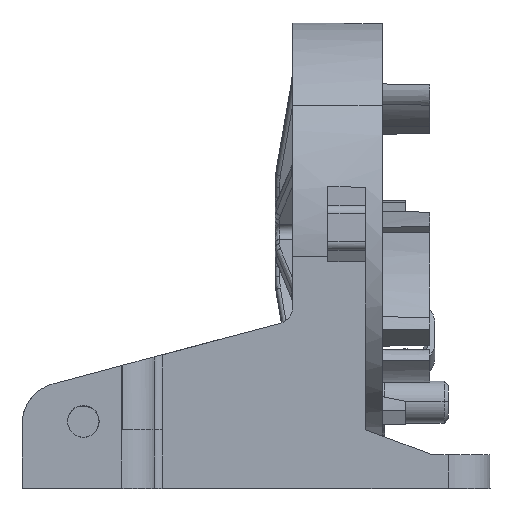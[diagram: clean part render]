
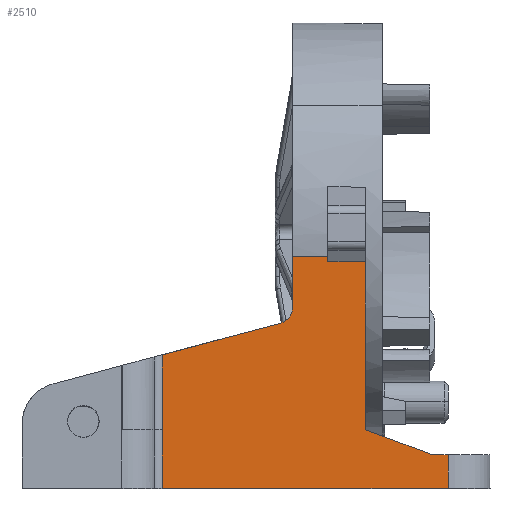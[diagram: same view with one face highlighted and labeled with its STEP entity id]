
A CAD part, top view. The second image highlights one B-rep face of the part: STEP entity #2510.
In plain terms, the highlighted planar face has unit normal (0, 0, 1).
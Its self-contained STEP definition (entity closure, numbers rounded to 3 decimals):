
#1543=VECTOR('Line Direction',#1542,1.) ;
#2405=VECTOR('Line Direction',#2404,1.) ;
#2414=VECTOR('Line Direction',#2413,1.) ;
#2421=VECTOR('Line Direction',#2420,1.) ;
#2442=VECTOR('Line Direction',#2441,1.) ;
#2449=VECTOR('Line Direction',#2448,1.) ;
#2456=VECTOR('Line Direction',#2455,1.) ;
#2463=VECTOR('Line Direction',#2462,1.) ;
#2470=VECTOR('Line Direction',#2469,1.) ;
#2477=VECTOR('Line Direction',#2476,1.) ;
#2484=VECTOR('Line Direction',#2483,1.) ;
#2491=VECTOR('Line Direction',#2490,1.) ;
#1542=DIRECTION('Vector Direction',(0.,-1.,0.)) ;
#2399=DIRECTION('Axis2P3D Direction',(0.,0.,1.)) ;
#2400=DIRECTION('Axis2P3D XDirection',(-1.,0.,0.)) ;
#2404=DIRECTION('Vector Direction',(0.,1.,0.)) ;
#2413=DIRECTION('Vector Direction',(-1.,0.,0.)) ;
#2420=DIRECTION('Vector Direction',(0.,1.,0.)) ;
#2441=DIRECTION('Vector Direction',(0.966,0.258,0.)) ;
#2448=DIRECTION('Vector Direction',(0.,-1.,0.)) ;
#2455=DIRECTION('Vector Direction',(0.,-1.,0.)) ;
#2462=DIRECTION('Vector Direction',(-1.,0.,0.)) ;
#2469=DIRECTION('Vector Direction',(-1.,0.,0.)) ;
#2476=DIRECTION('Vector Direction',(0.,1.,0.)) ;
#2483=DIRECTION('Vector Direction',(-1.,0.,0.)) ;
#2490=DIRECTION('Vector Direction',(-0.936,0.351,0.)) ;
#167=CARTESIAN_POINT('Vertex',(2032.787,62.398,442.424)) ;
#171=CARTESIAN_POINT('Control Point',(2036.987,62.399,442.424)) ;
#172=CARTESIAN_POINT('Control Point',(2035.587,62.399,442.424)) ;
#173=CARTESIAN_POINT('Control Point',(2034.187,62.399,442.424)) ;
#174=CARTESIAN_POINT('Control Point',(2032.787,62.398,442.424)) ;
#175=CARTESIAN_POINT('Vertex',(2036.987,62.399,442.424)) ;
#1538=CARTESIAN_POINT('Vertex',(2032.789,56.384,442.424)) ;
#1541=CARTESIAN_POINT('Line Origine',(2032.788,59.391,442.424)) ;
#2398=CARTESIAN_POINT('Axis2P3D Location',(1993.393,38.699,442.424)) ;
#2403=CARTESIAN_POINT('Line Origine',(2041.49,51.76,442.424)) ;
#2407=CARTESIAN_POINT('Vertex',(2041.492,41.71,442.424)) ;
#2409=CARTESIAN_POINT('Vertex',(2041.488,61.81,442.424)) ;
#2412=CARTESIAN_POINT('Line Origine',(2039.238,61.81,442.424)) ;
#2416=CARTESIAN_POINT('Vertex',(2036.988,61.809,442.424)) ;
#2419=CARTESIAN_POINT('Line Origine',(2036.988,62.104,442.424)) ;
#2425=CARTESIAN_POINT('Control Point',(2032.789,56.384,442.424)) ;
#2426=CARTESIAN_POINT('Control Point',(2032.789,56.176,442.424)) ;
#2427=CARTESIAN_POINT('Control Point',(2032.762,55.969,442.424)) ;
#2428=CARTESIAN_POINT('Control Point',(2032.708,55.765,442.424)) ;
#2429=CARTESIAN_POINT('Control Point',(2032.549,55.378,442.424)) ;
#2430=CARTESIAN_POINT('Control Point',(2032.295,55.044,442.424)) ;
#2431=CARTESIAN_POINT('Control Point',(2032.148,54.894,442.424)) ;
#2432=CARTESIAN_POINT('Control Point',(2031.896,54.698,442.424)) ;
#2433=CARTESIAN_POINT('Control Point',(2031.613,54.557,442.424)) ;
#2434=CARTESIAN_POINT('Control Point',(2031.512,54.514,442.424)) ;
#2435=CARTESIAN_POINT('Control Point',(2031.409,54.479,442.424)) ;
#2436=CARTESIAN_POINT('Control Point',(2031.305,54.451,442.424)) ;
#2437=CARTESIAN_POINT('Vertex',(2031.305,54.451,442.424)) ;
#2440=CARTESIAN_POINT('Line Origine',(2024.225,52.562,442.424)) ;
#2444=CARTESIAN_POINT('Vertex',(2017.146,50.672,442.424)) ;
#2447=CARTESIAN_POINT('Line Origine',(2017.147,46.188,442.424)) ;
#2451=CARTESIAN_POINT('Vertex',(2017.148,41.704,442.424)) ;
#2454=CARTESIAN_POINT('Line Origine',(2017.149,38.204,442.424)) ;
#2458=CARTESIAN_POINT('Vertex',(2017.15,34.704,442.424)) ;
#2461=CARTESIAN_POINT('Line Origine',(2024.972,34.706,442.424)) ;
#2465=CARTESIAN_POINT('Vertex',(2032.794,34.708,442.424)) ;
#2468=CARTESIAN_POINT('Line Origine',(2042.094,34.71,442.424)) ;
#2472=CARTESIAN_POINT('Vertex',(2051.394,34.712,442.424)) ;
#2475=CARTESIAN_POINT('Line Origine',(2051.393,36.712,442.424)) ;
#2479=CARTESIAN_POINT('Vertex',(2051.393,38.712,442.424)) ;
#2482=CARTESIAN_POINT('Line Origine',(2050.443,38.712,442.424)) ;
#2486=CARTESIAN_POINT('Vertex',(2049.493,38.712,442.424)) ;
#2489=CARTESIAN_POINT('Line Origine',(2045.493,40.211,442.424)) ;
#2401=AXIS2_PLACEMENT_3D('Plane Axis2P3D',#2398,#2399,#2400) ;
#177=EDGE_CURVE('',#176,#168,#170,.T.) ;
#1545=EDGE_CURVE('',#168,#1539,#1544,.T.) ;
#2411=EDGE_CURVE('',#2408,#2410,#2406,.T.) ;
#2418=EDGE_CURVE('',#2410,#2417,#2415,.T.) ;
#2423=EDGE_CURVE('',#2417,#176,#2422,.T.) ;
#2439=EDGE_CURVE('',#1539,#2438,#2424,.T.) ;
#2446=EDGE_CURVE('',#2445,#2438,#2443,.T.) ;
#2453=EDGE_CURVE('',#2445,#2452,#2450,.T.) ;
#2460=EDGE_CURVE('',#2452,#2459,#2457,.T.) ;
#2467=EDGE_CURVE('',#2466,#2459,#2464,.T.) ;
#2474=EDGE_CURVE('',#2473,#2466,#2471,.T.) ;
#2481=EDGE_CURVE('',#2473,#2480,#2478,.T.) ;
#2488=EDGE_CURVE('',#2480,#2487,#2485,.T.) ;
#2493=EDGE_CURVE('',#2487,#2408,#2492,.T.) ;
#2402=PLANE('Plane',#2401) ;
#2495=ORIENTED_EDGE('',*,*,#2411,.T.) ;
#2496=ORIENTED_EDGE('',*,*,#2418,.T.) ;
#2497=ORIENTED_EDGE('',*,*,#2423,.T.) ;
#2498=ORIENTED_EDGE('',*,*,#177,.T.) ;
#2499=ORIENTED_EDGE('',*,*,#1545,.T.) ;
#2500=ORIENTED_EDGE('',*,*,#2439,.T.) ;
#2501=ORIENTED_EDGE('',*,*,#2446,.F.) ;
#2502=ORIENTED_EDGE('',*,*,#2453,.T.) ;
#2503=ORIENTED_EDGE('',*,*,#2460,.T.) ;
#2504=ORIENTED_EDGE('',*,*,#2467,.F.) ;
#2505=ORIENTED_EDGE('',*,*,#2474,.F.) ;
#2506=ORIENTED_EDGE('',*,*,#2481,.T.) ;
#2507=ORIENTED_EDGE('',*,*,#2488,.T.) ;
#2508=ORIENTED_EDGE('',*,*,#2493,.T.) ;
#1544=LINE('Line',#1541,#1543) ;
#2406=LINE('Line',#2403,#2405) ;
#2415=LINE('Line',#2412,#2414) ;
#2422=LINE('Line',#2419,#2421) ;
#2443=LINE('Line',#2440,#2442) ;
#2450=LINE('Line',#2447,#2449) ;
#2457=LINE('Line',#2454,#2456) ;
#2464=LINE('Line',#2461,#2463) ;
#2471=LINE('Line',#2468,#2470) ;
#2478=LINE('Line',#2475,#2477) ;
#2485=LINE('Line',#2482,#2484) ;
#2492=LINE('Line',#2489,#2491) ;
#2510=ADVANCED_FACE('20200707\X2\66F465B0\X0\',(#2509),#2402,.T.) ;
#168=VERTEX_POINT('',#167) ;
#176=VERTEX_POINT('',#175) ;
#1539=VERTEX_POINT('',#1538) ;
#2408=VERTEX_POINT('',#2407) ;
#2410=VERTEX_POINT('',#2409) ;
#2417=VERTEX_POINT('',#2416) ;
#2438=VERTEX_POINT('',#2437) ;
#2445=VERTEX_POINT('',#2444) ;
#2452=VERTEX_POINT('',#2451) ;
#2459=VERTEX_POINT('',#2458) ;
#2466=VERTEX_POINT('',#2465) ;
#2473=VERTEX_POINT('',#2472) ;
#2480=VERTEX_POINT('',#2479) ;
#2487=VERTEX_POINT('',#2486) ;
#170=B_SPLINE_CURVE_WITH_KNOTS('',3,(#171,#172,#173,#174),.UNSPECIFIED.,.F.,.U.,(4,4),(0.,5.94),.UNSPECIFIED.) ;
#2424=B_SPLINE_CURVE_WITH_KNOTS('',5,(#2425,#2426,#2427,#2428,#2429,#2430,#2431,#2432,#2433,#2434,#2435,#2436),.UNSPECIFIED.,.F.,.U.,(6,3,3,6),(0.,1.47,2.939,3.705),.UNSPECIFIED.) ;
#2494=EDGE_LOOP('',(#2495,#2496,#2497,#2498,#2499,#2500,#2501,#2502,#2503,#2504,#2505,#2506,#2507,#2508)) ;
#2509=FACE_OUTER_BOUND('',#2494,.T.) ;
